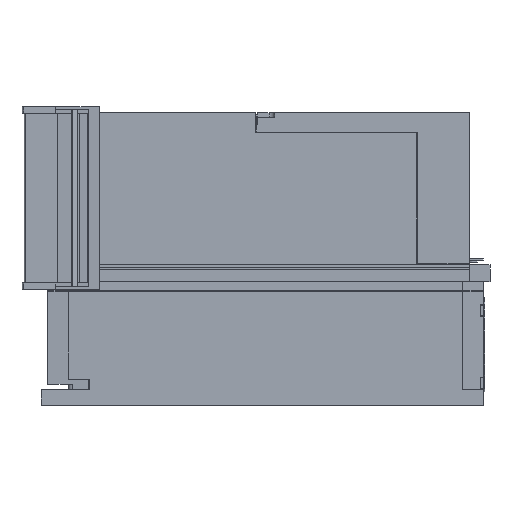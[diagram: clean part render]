
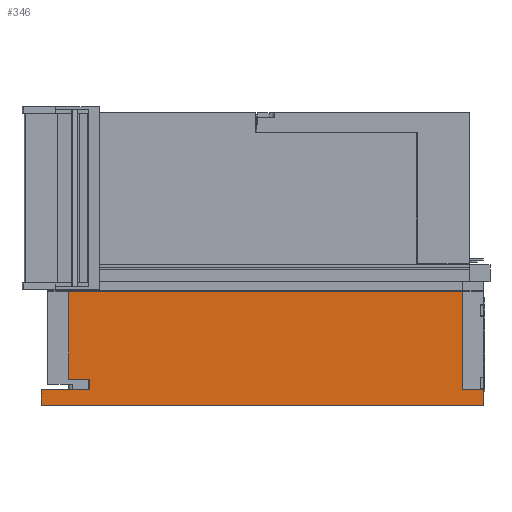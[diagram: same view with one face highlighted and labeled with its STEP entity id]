
A CAD part, left-side view. The second image highlights one B-rep face of the part: STEP entity #346.
In plain terms, the highlighted planar face has unit normal (-1, 0, 0).
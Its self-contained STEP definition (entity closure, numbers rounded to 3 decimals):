
#346=ADVANCED_FACE('',(#2318),#2319,.T.);
#2318=FACE_OUTER_BOUND('',#6033,.T.);
#2319=PLANE('',#6034);
#6033=EDGE_LOOP('',(#12119,#12120,#12121,#12122,#12123,#12124,#12125,#12126,#12127,#12128));
#6034=AXIS2_PLACEMENT_3D('',#12129,#12130,#12131);
#12119=ORIENTED_EDGE('',*,*,#26169,.F.);
#12120=ORIENTED_EDGE('',*,*,#26110,.F.);
#12121=ORIENTED_EDGE('',*,*,#26044,.T.);
#12122=ORIENTED_EDGE('',*,*,#26079,.T.);
#12123=ORIENTED_EDGE('',*,*,#26168,.T.);
#12124=ORIENTED_EDGE('',*,*,#26153,.F.);
#12125=ORIENTED_EDGE('',*,*,#26170,.F.);
#12126=ORIENTED_EDGE('',*,*,#26171,.T.);
#12127=ORIENTED_EDGE('',*,*,#26172,.T.);
#12128=ORIENTED_EDGE('',*,*,#26087,.T.);
#12129=CARTESIAN_POINT('',(-72.5,135.5,0.0));
#12130=DIRECTION('',(-1.0,0.0,0.0));
#12131=DIRECTION('',(0.0,0.0,1.0));
#26044=EDGE_CURVE('',#31378,#31379,#31380,.T.);
#26079=EDGE_CURVE('',#31379,#31441,#31443,.T.);
#26087=EDGE_CURVE('',#31458,#31456,#31459,.T.);
#26110=EDGE_CURVE('',#31378,#31495,#31496,.T.);
#26153=EDGE_CURVE('',#31562,#31564,#31565,.T.);
#26168=EDGE_CURVE('',#31441,#31564,#31582,.T.);
#26169=EDGE_CURVE('',#31495,#31456,#31583,.T.);
#26170=EDGE_CURVE('',#31584,#31562,#31585,.T.);
#26171=EDGE_CURVE('',#31584,#31586,#31587,.T.);
#26172=EDGE_CURVE('',#31586,#31458,#31588,.T.);
#31378=VERTEX_POINT('',#39943);
#31379=VERTEX_POINT('',#39944);
#31380=LINE('',#39945,#39946);
#31441=VERTEX_POINT('',#40039);
#31443=LINE('',#40042,#40043);
#31456=VERTEX_POINT('',#40060);
#31458=VERTEX_POINT('',#40063);
#31459=LINE('',#40064,#40065);
#31495=VERTEX_POINT('',#40114);
#31496=LINE('',#40115,#40116);
#31562=VERTEX_POINT('',#40219);
#31564=VERTEX_POINT('',#40222);
#31565=LINE('',#40223,#40224);
#31582=LINE('',#40255,#40256);
#31583=LINE('',#40257,#40258);
#31584=VERTEX_POINT('',#40259);
#31585=LINE('',#40260,#40261);
#31586=VERTEX_POINT('',#40262);
#31587=LINE('',#40263,#40264);
#31588=LINE('',#40265,#40266);
#39943=CARTESIAN_POINT('',(-72.5,-167.5,0.0));
#39944=CARTESIAN_POINT('',(-72.5,-167.5,12.0));
#39945=CARTESIAN_POINT('',(-72.5,-167.5,0.0));
#39946=VECTOR('',#52616,12.0);
#40039=CARTESIAN_POINT('',(-72.5,-151.5,12.0));
#40042=CARTESIAN_POINT('',(-72.5,-167.5,12.0));
#40043=VECTOR('',#52653,16.0);
#40060=CARTESIAN_POINT('',(-72.5,172.5,12.0));
#40063=CARTESIAN_POINT('',(-72.5,135.5,12.0));
#40064=CARTESIAN_POINT('',(-72.5,135.5,12.0));
#40065=VECTOR('',#52665,37.0);
#40114=CARTESIAN_POINT('',(-72.5,172.5,0.0));
#40115=CARTESIAN_POINT('',(-72.5,-167.5,0.0));
#40116=VECTOR('',#52706,340.0);
#40219=CARTESIAN_POINT('',(-72.5,151.5,87.5));
#40222=CARTESIAN_POINT('',(-72.5,-151.5,87.5));
#40223=CARTESIAN_POINT('',(-72.5,151.5,87.5));
#40224=VECTOR('',#52757,303.0);
#40255=CARTESIAN_POINT('',(-72.5,-151.5,12.0));
#40256=VECTOR('',#52772,75.5);
#40257=CARTESIAN_POINT('',(-72.5,172.5,0.0));
#40258=VECTOR('',#52773,12.0);
#40259=CARTESIAN_POINT('',(-72.5,151.5,20.0));
#40260=CARTESIAN_POINT('',(-72.5,151.5,20.0));
#40261=VECTOR('',#52774,67.5);
#40262=CARTESIAN_POINT('',(-72.5,135.5,20.0));
#40263=CARTESIAN_POINT('',(-72.5,151.5,20.0));
#40264=VECTOR('',#52775,16.0);
#40265=CARTESIAN_POINT('',(-72.5,135.5,20.0));
#40266=VECTOR('',#52776,8.0);
#52616=DIRECTION('',(0.0,0.0,1.0));
#52653=DIRECTION('',(0.0,1.0,0.0));
#52665=DIRECTION('',(0.0,1.0,0.0));
#52706=DIRECTION('',(0.0,1.0,0.0));
#52757=DIRECTION('',(0.0,-1.0,0.0));
#52772=DIRECTION('',(0.0,0.0,1.0));
#52773=DIRECTION('',(0.0,0.0,1.0));
#52774=DIRECTION('',(0.0,0.0,1.0));
#52775=DIRECTION('',(0.0,-1.0,0.0));
#52776=DIRECTION('',(0.0,0.0,-1.0));
